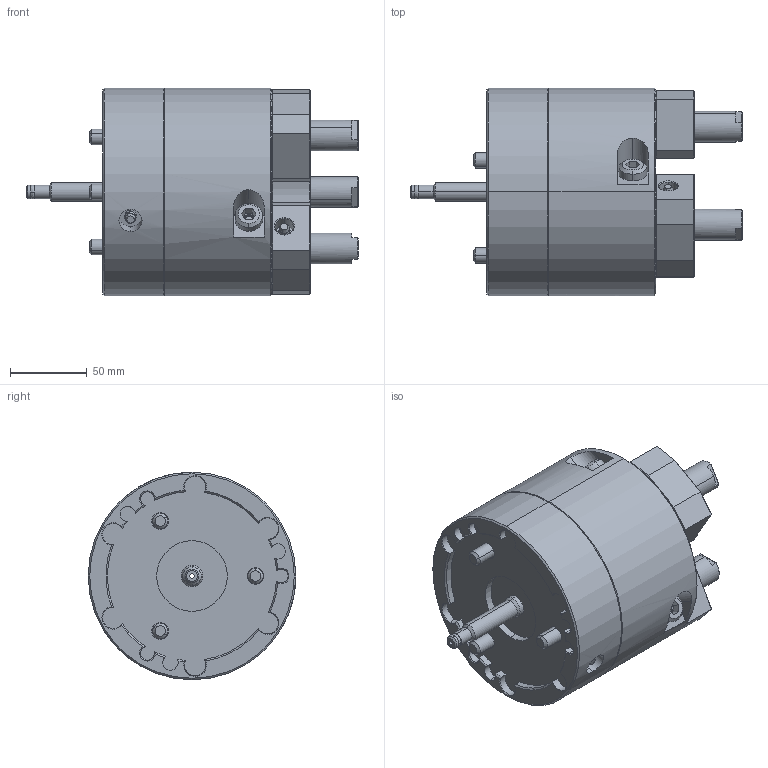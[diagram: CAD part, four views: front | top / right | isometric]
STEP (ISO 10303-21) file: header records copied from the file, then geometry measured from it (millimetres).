
FILE_DESCRIPTION (( 'STEP AP214' ), '1' );
FILE_NAME ('FG05_UC.STEP', '2019-11-22T01:13:29', ( '' ), ( '' ), 'SwSTEP 2.0', 'SolidWorks 2017', '' );
FILE_SCHEMA (( 'AUTOMOTIVE_DESIGN' ));
Length unit declared in the file: millimetre
Products named in the file (2): 結合; FG05_UC
Assembly tree (1 placements, depth 2):
  FG05_UC
    結合
Bounding box: 216 x 135 x 135 mm (x, y, z)
Volume: 1684479.5 mm3; surface area: 146428.6 mm2
Topology: 3 solids, 27 shells, 1688 faces, 4040 edges, 2454 vertices
Faces by surface type: plane 774, cone 380, cylinder 333, bspline 127, torus 74
Entity records: 57029 total; most frequent: CARTESIAN_POINT 18259, ORIENTED_EDGE 7972, DIRECTION 7912, EDGE_CURVE 3986, AXIS2_PLACEMENT_3D 2928, VERTEX_POINT 2454, VECTOR 2056, LINE 2056
